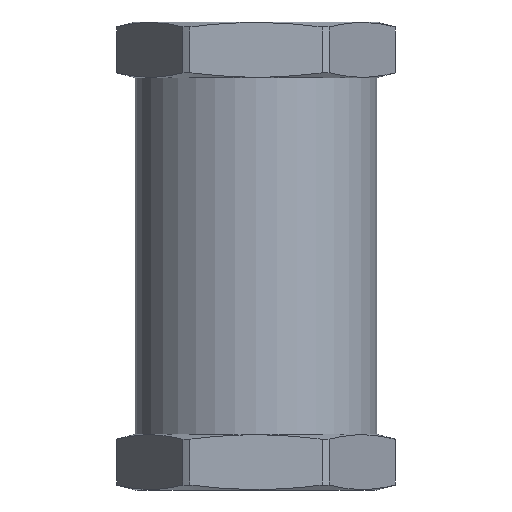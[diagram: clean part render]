
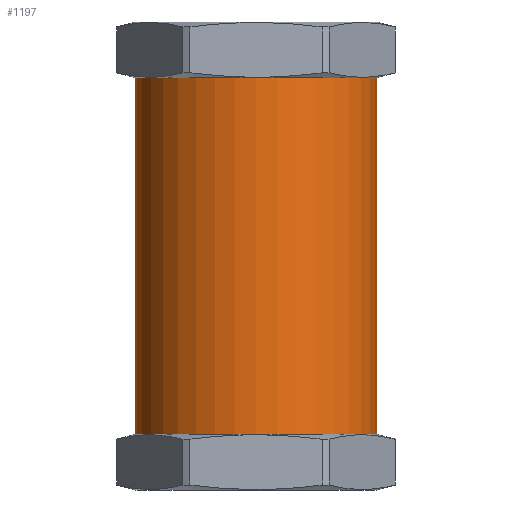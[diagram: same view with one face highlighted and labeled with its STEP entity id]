
A CAD part, front view. The second image highlights one B-rep face of the part: STEP entity #1197.
In plain terms, the highlighted cylindrical face has radius 34.417 mm (diameter 68.834 mm), a partial arc.
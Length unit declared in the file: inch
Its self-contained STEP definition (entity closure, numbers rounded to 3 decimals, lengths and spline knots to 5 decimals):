
#57 = CARTESIAN_POINT ( 'NONE',  ( -1.355, 0., 4.625 ) ) ;
#155 = EDGE_LOOP ( 'NONE', ( #780, #779, #778, #777 ) ) ;
#170 = AXIS2_PLACEMENT_3D ( 'NONE', #374, #371, #377 ) ;
#230 = CIRCLE ( 'NONE', #231, 1.355 ) ;
#231 = AXIS2_PLACEMENT_3D ( 'NONE', #1034, #1035, #1036 ) ;
#232 = AXIS2_PLACEMENT_3D ( 'NONE', #1333, #1334, #1335 ) ;
#234 = CIRCLE ( 'NONE', #232, 1.355 ) ;
#294 = VECTOR ( 'NONE', #610, 39.37008 ) ;
#306 = VECTOR ( 'NONE', #572, 39.37008 ) ;
#371 = DIRECTION ( 'NONE',  ( 0., 0., -1. ) ) ;
#373 = FACE_OUTER_BOUND ( 'NONE', #155, .T. ) ;
#374 = CARTESIAN_POINT ( 'NONE',  ( 0., 0., 0. ) ) ;
#376 = CYLINDRICAL_SURFACE ( 'NONE', #170, 1.355 ) ;
#377 = DIRECTION ( 'NONE',  ( -1., 0., 0. ) ) ;
#402 = CARTESIAN_POINT ( 'NONE',  ( -1.355, 0., 0.625 ) ) ;
#410 = CARTESIAN_POINT ( 'NONE',  ( 1.355, 0., 0.625 ) ) ;
#412 = CARTESIAN_POINT ( 'NONE',  ( 1.355, 0., 4.625 ) ) ;
#557 = LINE ( 'NONE', #570, #306 ) ;
#570 = CARTESIAN_POINT ( 'NONE',  ( -1.355, 0., 0. ) ) ;
#572 = DIRECTION ( 'NONE',  ( 0., 0., -1. ) ) ;
#600 = CARTESIAN_POINT ( 'NONE',  ( 1.355, 0., 0. ) ) ;
#601 = LINE ( 'NONE', #600, #294 ) ;
#610 = DIRECTION ( 'NONE',  ( 0., 0., -1. ) ) ;
#777 = ORIENTED_EDGE ( 'NONE', *, *, #868, .F. ) ;
#778 = ORIENTED_EDGE ( 'NONE', *, *, #812, .T. ) ;
#779 = ORIENTED_EDGE ( 'NONE', *, *, #864, .T. ) ;
#780 = ORIENTED_EDGE ( 'NONE', *, *, #820, .F. ) ;
#812 = EDGE_CURVE ( 'NONE', #1560, #1419, #557, .T. ) ;
#820 = EDGE_CURVE ( 'NONE', #1425, #1418, #601, .T. ) ;
#864 = EDGE_CURVE ( 'NONE', #1425, #1560, #234, .T. ) ;
#868 = EDGE_CURVE ( 'NONE', #1418, #1419, #230, .T. ) ;
#1034 = CARTESIAN_POINT ( 'NONE',  ( 0., 0., 0.625 ) ) ;
#1035 = DIRECTION ( 'NONE',  ( 0., 0., -1. ) ) ;
#1036 = DIRECTION ( 'NONE',  ( -1., 0., 0. ) ) ;
#1197 = ADVANCED_FACE ( 'NONE', ( #373 ), #376, .T. ) ;
#1333 = CARTESIAN_POINT ( 'NONE',  ( 0., 0., 4.625 ) ) ;
#1334 = DIRECTION ( 'NONE',  ( 0., 0., -1. ) ) ;
#1335 = DIRECTION ( 'NONE',  ( -1., 0., 0. ) ) ;
#1418 = VERTEX_POINT ( 'NONE', #410 ) ;
#1419 = VERTEX_POINT ( 'NONE', #402 ) ;
#1425 = VERTEX_POINT ( 'NONE', #412 ) ;
#1560 = VERTEX_POINT ( 'NONE', #57 ) ;
